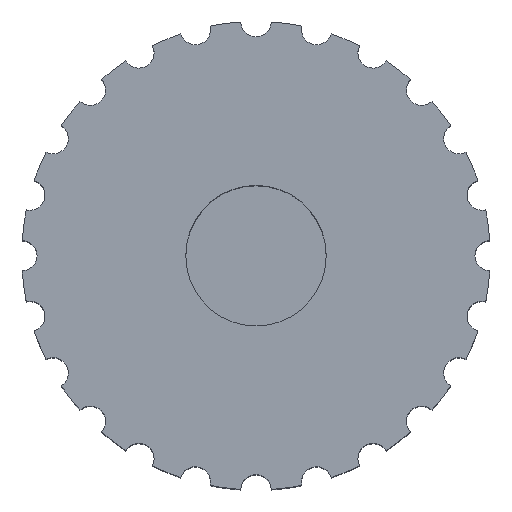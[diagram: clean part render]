
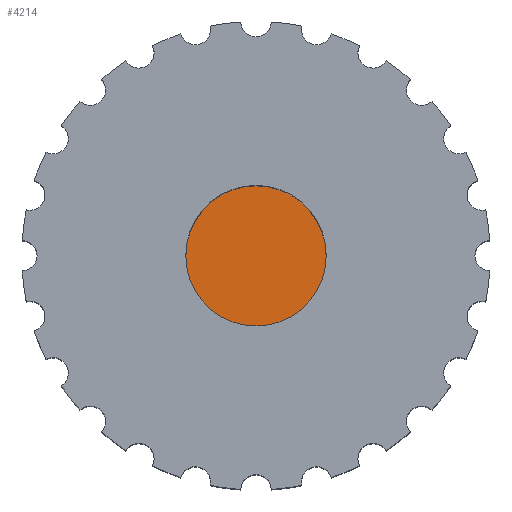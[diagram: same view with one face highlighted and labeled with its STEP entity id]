
A CAD part, top view. The second image highlights one B-rep face of the part: STEP entity #4214.
In plain terms, the highlighted planar face has unit normal (0, 0, 1).
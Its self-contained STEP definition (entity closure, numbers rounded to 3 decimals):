
#1554 = CYLINDRICAL_SURFACE('',#1555,3.);
#1555 = AXIS2_PLACEMENT_3D('',#1556,#1557,#1558);
#1556 = CARTESIAN_POINT('',(0.,0.,3.));
#1557 = DIRECTION('',(0.,0.,1.));
#1558 = DIRECTION('',(1.,0.,-0.));
#3964 = VERTEX_POINT('',#3965);
#3965 = CARTESIAN_POINT('',(3.,0.,3.));
#3986 = EDGE_CURVE('',#3964,#3964,#3987,.T.);
#3987 = SURFACE_CURVE('',#3988,(#3993,#4000),.PCURVE_S1.);
#3988 = CIRCLE('',#3989,3.);
#3989 = AXIS2_PLACEMENT_3D('',#3990,#3991,#3992);
#3990 = CARTESIAN_POINT('',(0.,0.,3.));
#3991 = DIRECTION('',(0.,0.,1.));
#3992 = DIRECTION('',(1.,0.,-0.));
#3993 = PCURVE('',#1554,#3994);
#3994 = DEFINITIONAL_REPRESENTATION('',(#3995),#3999);
#3995 = LINE('',#3996,#3997);
#3996 = CARTESIAN_POINT('',(0.,0.));
#3997 = VECTOR('',#3998,1.);
#3998 = DIRECTION('',(1.,0.));
#3999 = ( GEOMETRIC_REPRESENTATION_CONTEXT(2)
PARAMETRIC_REPRESENTATION_CONTEXT() REPRESENTATION_CONTEXT('2D SPACE',''
  ) );
#4000 = PCURVE('',#4001,#4006);
#4001 = PLANE('',#4002);
#4002 = AXIS2_PLACEMENT_3D('',#4003,#4004,#4005);
#4003 = CARTESIAN_POINT('',(0.,0.,3.));
#4004 = DIRECTION('',(0.,0.,1.));
#4005 = DIRECTION('',(1.,0.,-0.));
#4006 = DEFINITIONAL_REPRESENTATION('',(#4007),#4011);
#4007 = CIRCLE('',#4008,3.);
#4008 = AXIS2_PLACEMENT_2D('',#4009,#4010);
#4009 = CARTESIAN_POINT('',(0.,0.));
#4010 = DIRECTION('',(1.,0.));
#4011 = ( GEOMETRIC_REPRESENTATION_CONTEXT(2)
PARAMETRIC_REPRESENTATION_CONTEXT() REPRESENTATION_CONTEXT('2D SPACE',''
  ) );
#4214 = ADVANCED_FACE('',(#4215),#4001,.T.);
#4215 = FACE_BOUND('',#4216,.F.);
#4216 = EDGE_LOOP('',(#4217));
#4217 = ORIENTED_EDGE('',*,*,#3986,.F.);
